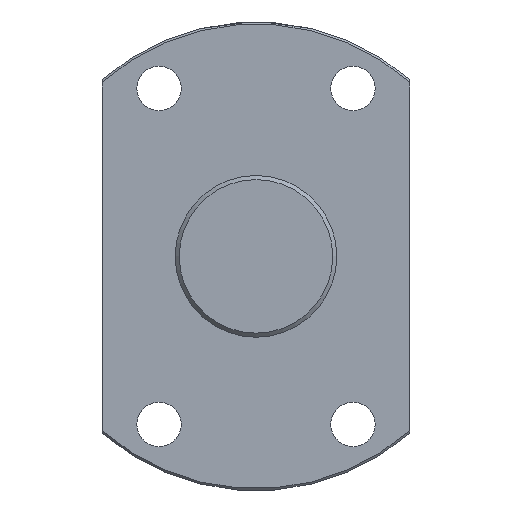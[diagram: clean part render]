
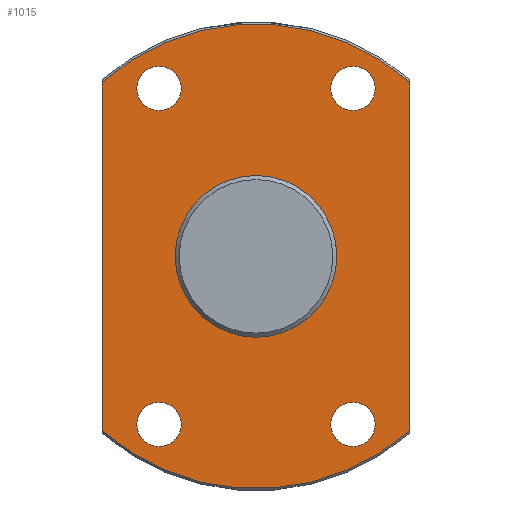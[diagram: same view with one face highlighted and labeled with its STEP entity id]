
A CAD part, left-side view. The second image highlights one B-rep face of the part: STEP entity #1015.
In plain terms, the highlighted planar face has unit normal (-1, 0, 0).
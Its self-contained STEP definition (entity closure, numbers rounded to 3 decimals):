
#315=CARTESIAN_POINT('',(946.588,-38.,43.154));
#316=VERTEX_POINT('',#315);
#341=CARTESIAN_POINT('',(946.588,38.,43.154));
#342=VERTEX_POINT('',#341);
#356=CARTESIAN_POINT('',(946.588,0.0,0.0));
#357=DIRECTION('',(1.0,0.0,0.0));
#358=DIRECTION('',(0.0,1.0,0.0));
#359=AXIS2_PLACEMENT_3D('',#356,#357,#358);
#360=CIRCLE('',#359,57.5);
#361=EDGE_CURVE('',#342,#316,#360,.T.);
#478=CARTESIAN_POINT('',(946.588,-38.,-43.154));
#479=VERTEX_POINT('',#478);
#480=CARTESIAN_POINT('',(946.588,-38.,43.154));
#481=DIRECTION('',(0.0,0.0,-1.0));
#482=VECTOR('',#481,86.308);
#483=LINE('',#480,#482);
#484=EDGE_CURVE('',#316,#479,#483,.T.);
#560=CARTESIAN_POINT('',(946.588,38.,-43.154));
#561=VERTEX_POINT('',#560);
#585=CARTESIAN_POINT('',(946.588,0.0,0.0));
#586=DIRECTION('',(1.0,0.0,0.0));
#587=DIRECTION('',(0.0,1.0,0.0));
#588=AXIS2_PLACEMENT_3D('',#585,#586,#587);
#589=CIRCLE('',#588,57.5);
#590=EDGE_CURVE('',#479,#561,#589,.T.);
#671=CARTESIAN_POINT('',(946.588,38.,-43.154));
#672=DIRECTION('',(0.0,0.0,1.0));
#673=VECTOR('',#672,86.308);
#674=LINE('',#671,#673);
#675=EDGE_CURVE('',#561,#342,#674,.T.);
#897=CARTESIAN_POINT('',(946.588,20.0,0.));
#898=VERTEX_POINT('',#897);
#899=CARTESIAN_POINT('',(946.588,0.0,0.0));
#900=DIRECTION('',(1.0,0.0,0.0));
#901=DIRECTION('',(0.0,-1.0,0.0));
#902=AXIS2_PLACEMENT_3D('',#899,#900,#901);
#903=CIRCLE('',#902,20.0);
#904=EDGE_CURVE('',#898,#898,#903,.T.);
#917=CARTESIAN_POINT('',(946.588,29.5,-41.569));
#918=VERTEX_POINT('',#917);
#919=CARTESIAN_POINT('',(946.588,24.,-41.569));
#920=DIRECTION('',(1.0,0.0,0.0));
#921=DIRECTION('',(0.0,1.0,0.0));
#922=AXIS2_PLACEMENT_3D('',#919,#920,#921);
#923=CIRCLE('',#922,5.5);
#924=EDGE_CURVE('',#918,#918,#923,.T.);
#937=CARTESIAN_POINT('',(946.588,-18.5,41.569));
#938=VERTEX_POINT('',#937);
#939=CARTESIAN_POINT('',(946.588,-24.,41.569));
#940=DIRECTION('',(1.0,0.0,0.0));
#941=DIRECTION('',(0.0,1.0,0.0));
#942=AXIS2_PLACEMENT_3D('',#939,#940,#941);
#943=CIRCLE('',#942,5.5);
#944=EDGE_CURVE('',#938,#938,#943,.T.);
#957=CARTESIAN_POINT('',(946.588,29.5,41.569));
#958=VERTEX_POINT('',#957);
#959=CARTESIAN_POINT('',(946.588,24.,41.569));
#960=DIRECTION('',(1.0,0.0,0.0));
#961=DIRECTION('',(0.0,1.0,0.0));
#962=AXIS2_PLACEMENT_3D('',#959,#960,#961);
#963=CIRCLE('',#962,5.5);
#964=EDGE_CURVE('',#958,#958,#963,.T.);
#977=CARTESIAN_POINT('',(946.588,-18.5,-41.569));
#978=VERTEX_POINT('',#977);
#979=CARTESIAN_POINT('',(946.588,-24.,-41.569));
#980=DIRECTION('',(1.0,0.0,0.0));
#981=DIRECTION('',(0.0,1.0,0.0));
#982=AXIS2_PLACEMENT_3D('',#979,#980,#981);
#983=CIRCLE('',#982,5.5);
#984=EDGE_CURVE('',#978,#978,#983,.T.);
#989=CARTESIAN_POINT('',(946.588,0.0,0.0));
#990=DIRECTION('',(-1.0,0.0,0.0));
#991=DIRECTION('',(0.0,0.0,1.0));
#992=AXIS2_PLACEMENT_3D('',#989,#990,#991);
#993=PLANE('',#992);
#994=ORIENTED_EDGE('',*,*,#361,.F.);
#995=ORIENTED_EDGE('',*,*,#675,.F.);
#996=ORIENTED_EDGE('',*,*,#590,.F.);
#997=ORIENTED_EDGE('',*,*,#484,.F.);
#998=EDGE_LOOP('',(#994,#995,#996,#997));
#999=FACE_OUTER_BOUND('',#998,.T.);
#1000=ORIENTED_EDGE('',*,*,#904,.T.);
#1001=EDGE_LOOP('',(#1000));
#1002=FACE_BOUND('',#1001,.T.);
#1003=ORIENTED_EDGE('',*,*,#924,.T.);
#1004=EDGE_LOOP('',(#1003));
#1005=FACE_BOUND('',#1004,.T.);
#1006=ORIENTED_EDGE('',*,*,#944,.T.);
#1007=EDGE_LOOP('',(#1006));
#1008=FACE_BOUND('',#1007,.T.);
#1009=ORIENTED_EDGE('',*,*,#964,.T.);
#1010=EDGE_LOOP('',(#1009));
#1011=FACE_BOUND('',#1010,.T.);
#1012=ORIENTED_EDGE('',*,*,#984,.T.);
#1013=EDGE_LOOP('',(#1012));
#1014=FACE_BOUND('',#1013,.T.);
#1015=ADVANCED_FACE('',(#999,#1002,#1005,#1008,#1011,#1014),#993,.T.);
